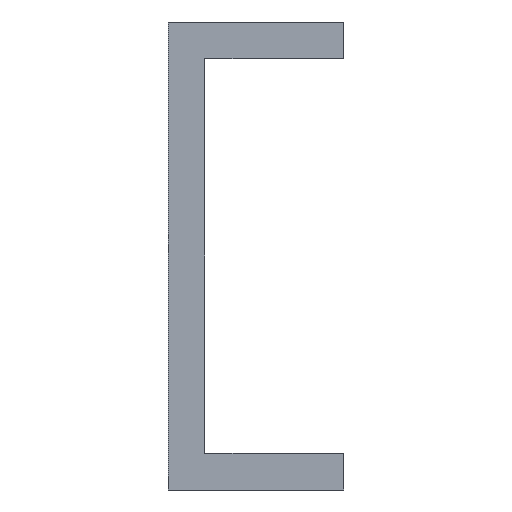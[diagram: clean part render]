
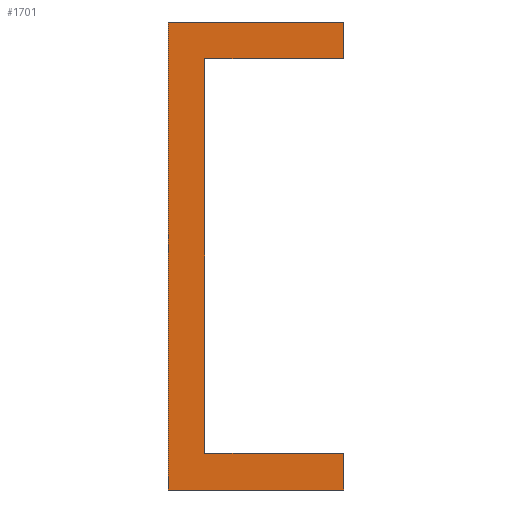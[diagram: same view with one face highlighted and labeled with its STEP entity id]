
A CAD part, front view. The second image highlights one B-rep face of the part: STEP entity #1701.
In plain terms, the highlighted planar face has unit normal (0, -1, 0).
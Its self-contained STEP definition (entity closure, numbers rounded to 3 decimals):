
#1243 = EDGE_CURVE ( 'NONE', #2374, #16915, #12810, .T. ) ;
#1537 = LINE ( 'NONE', #7887, #17945 ) ;
#1701 = ADVANCED_FACE ( 'NONE', ( #7663 ), #10847, .F. ) ;
#1785 = DIRECTION ( 'NONE',  ( 0., 0., -1. ) ) ;
#1905 = VERTEX_POINT ( 'NONE', #10822 ) ;
#2103 = EDGE_CURVE ( 'NONE', #19103, #9081, #18315, .T. ) ;
#2374 = VERTEX_POINT ( 'NONE', #14200 ) ;
#3036 = ORIENTED_EDGE ( 'NONE', *, *, #7713, .T. ) ;
#3490 = CARTESIAN_POINT ( 'NONE',  ( -1.25, 0., 16. ) ) ;
#3522 = CARTESIAN_POINT ( 'NONE',  ( -1.25, 0., -16. ) ) ;
#3576 = CARTESIAN_POINT ( 'NONE',  ( 0., 0., -16. ) ) ;
#4067 = EDGE_LOOP ( 'NONE', ( #15156, #3036, #6337, #18194, #6309, #5800, #14498, #9984 ) ) ;
#4910 = VECTOR ( 'NONE', #8991, 1000. ) ;
#5469 = AXIS2_PLACEMENT_3D ( 'NONE', #6420, #16772, #7929 ) ;
#5536 = VECTOR ( 'NONE', #18941, 1000. ) ;
#5800 = ORIENTED_EDGE ( 'NONE', *, *, #2103, .F. ) ;
#5975 = CARTESIAN_POINT ( 'NONE',  ( 10.75, 0., 0. ) ) ;
#6309 = ORIENTED_EDGE ( 'NONE', *, *, #16640, .F. ) ;
#6337 = ORIENTED_EDGE ( 'NONE', *, *, #7930, .F. ) ;
#6420 = CARTESIAN_POINT ( 'NONE',  ( 0., 0., 0. ) ) ;
#7508 = DIRECTION ( 'NONE',  ( -1., 0., 0. ) ) ;
#7555 = CARTESIAN_POINT ( 'NONE',  ( 1.25, 0., 13.5 ) ) ;
#7636 = EDGE_CURVE ( 'NONE', #1905, #19103, #8700, .T. ) ;
#7663 = FACE_OUTER_BOUND ( 'NONE', #4067, .T. ) ;
#7713 = EDGE_CURVE ( 'NONE', #8443, #12062, #10562, .T. ) ;
#7887 = CARTESIAN_POINT ( 'NONE',  ( 0., 0., 13.5 ) ) ;
#7929 = DIRECTION ( 'NONE',  ( 0., 0., 1. ) ) ;
#7930 = EDGE_CURVE ( 'NONE', #2374, #12062, #1537, .T. ) ;
#8443 = VERTEX_POINT ( 'NONE', #13988 ) ;
#8482 = LINE ( 'NONE', #11008, #11963 ) ;
#8700 = LINE ( 'NONE', #3576, #11948 ) ;
#8991 = DIRECTION ( 'NONE',  ( 0., 0., 1. ) ) ;
#9081 = VERTEX_POINT ( 'NONE', #3490 ) ;
#9984 = ORIENTED_EDGE ( 'NONE', *, *, #10046, .F. ) ;
#10046 = EDGE_CURVE ( 'NONE', #16916, #1905, #18105, .T. ) ;
#10562 = LINE ( 'NONE', #12823, #11479 ) ;
#10822 = CARTESIAN_POINT ( 'NONE',  ( 10.75, 0., -16. ) ) ;
#10847 = PLANE ( 'NONE',  #5469 ) ;
#11008 = CARTESIAN_POINT ( 'NONE',  ( 0., 0., 16. ) ) ;
#11086 = DIRECTION ( 'NONE',  ( -1., 0., 0. ) ) ;
#11479 = VECTOR ( 'NONE', #18765, 1000. ) ;
#11948 = VECTOR ( 'NONE', #11086, 1000. ) ;
#11963 = VECTOR ( 'NONE', #12495, 1000. ) ;
#12062 = VERTEX_POINT ( 'NONE', #7555 ) ;
#12495 = DIRECTION ( 'NONE',  ( 1., 0., 0. ) ) ;
#12810 = LINE ( 'NONE', #5975, #4910 ) ;
#12823 = CARTESIAN_POINT ( 'NONE',  ( 1.25, 0., 0. ) ) ;
#13072 = CARTESIAN_POINT ( 'NONE',  ( 10.75, 0., 16. ) ) ;
#13630 = EDGE_CURVE ( 'NONE', #16916, #8443, #15179, .T. ) ;
#13988 = CARTESIAN_POINT ( 'NONE',  ( 1.25, 0., -13.5 ) ) ;
#14200 = CARTESIAN_POINT ( 'NONE',  ( 10.75, 0., 13.5 ) ) ;
#14400 = CARTESIAN_POINT ( 'NONE',  ( -1.25, 0., 0. ) ) ;
#14498 = ORIENTED_EDGE ( 'NONE', *, *, #7636, .F. ) ;
#14623 = VECTOR ( 'NONE', #1785, 1000. ) ;
#15156 = ORIENTED_EDGE ( 'NONE', *, *, #13630, .T. ) ;
#15179 = LINE ( 'NONE', #18064, #17730 ) ;
#16014 = CARTESIAN_POINT ( 'NONE',  ( 10.75, 0., -13.5 ) ) ;
#16306 = CARTESIAN_POINT ( 'NONE',  ( 10.75, 0., 0. ) ) ;
#16640 = EDGE_CURVE ( 'NONE', #9081, #16915, #8482, .T. ) ;
#16772 = DIRECTION ( 'NONE',  ( 0., 1., 0. ) ) ;
#16915 = VERTEX_POINT ( 'NONE', #13072 ) ;
#16916 = VERTEX_POINT ( 'NONE', #16014 ) ;
#17730 = VECTOR ( 'NONE', #7508, 1000. ) ;
#17945 = VECTOR ( 'NONE', #18298, 1000. ) ;
#18064 = CARTESIAN_POINT ( 'NONE',  ( 0., 0., -13.5 ) ) ;
#18105 = LINE ( 'NONE', #16306, #14623 ) ;
#18194 = ORIENTED_EDGE ( 'NONE', *, *, #1243, .T. ) ;
#18298 = DIRECTION ( 'NONE',  ( -1., 0., 0. ) ) ;
#18315 = LINE ( 'NONE', #14400, #5536 ) ;
#18765 = DIRECTION ( 'NONE',  ( 0., 0., 1. ) ) ;
#18941 = DIRECTION ( 'NONE',  ( 0., 0., 1. ) ) ;
#19103 = VERTEX_POINT ( 'NONE', #3522 ) ;
